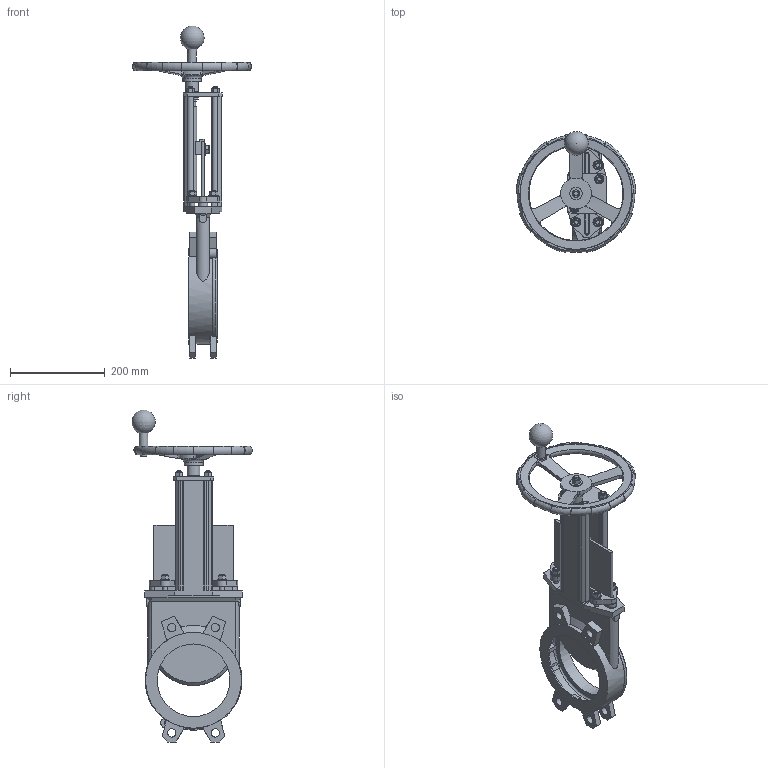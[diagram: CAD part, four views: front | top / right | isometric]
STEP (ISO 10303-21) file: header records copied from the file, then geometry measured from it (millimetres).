
FILE_DESCRIPTION(('STEP AP203'),'1');
FILE_NAME('G:/KONSTRUK/3-d block för CD/MV VALVE/HAND WHEEL/MV150-PN10-HW.stp',' ',(' '),(' '),'XStep 1.0',' ',' ');
FILE_SCHEMA(('CONFIG_CONTROL_DESIGN'));
Length unit declared in the file: metre
Bounding box: 251.92 x 254.51 x 698.99 mm (x, y, z)
Volume: 2235252.6 mm3; surface area: 672973.9 mm2
Topology: 1 solids, 8 shells, 812 faces, 1988 edges, 1262 vertices
Faces by surface type: plane 416, cylinder 191, cone 170, torus 28, bspline 6, sphere 1
Full cylindrical faces by diameter (mm): 8.5 x8, 10 x19, 10.25 x1, 10.791 x9, 11 x4, 12 x6, 12.793 x1, 15 x2, 17 x1, 17.5 x8, 18 x1, 19.4 x2, 19.5 x2, 19.715 x8, 20 x2, 24 x1, 26.35 x1, 27 x2, 27.5 x2, 40 x1, 153 x2, 159 x2, 165 x1, 169 x1, 174 x1, 175 x1, 202 x1, 204 x1, 235 x1, 237 x1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
Entity records: 26699 total; most frequent: CARTESIAN_POINT 8389, DIRECTION 3742, ORIENTED_EDGE 3644, EDGE_CURVE 1822, AXIS2_PLACEMENT_3D 1496, VERTEX_POINT 1224, EDGE_LOOP 1066, FACE_OUTER_BOUND 911
